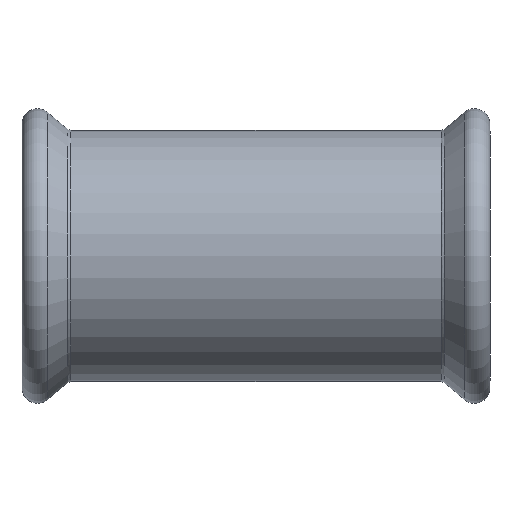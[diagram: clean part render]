
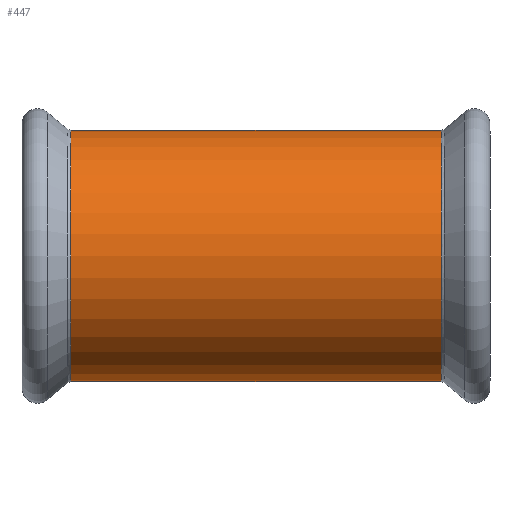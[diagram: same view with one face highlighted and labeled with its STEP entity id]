
A CAD part, front view. The second image highlights one B-rep face of the part: STEP entity #447.
In plain terms, the highlighted cylindrical face has radius 56.35 mm (diameter 112.7 mm), a full revolution.
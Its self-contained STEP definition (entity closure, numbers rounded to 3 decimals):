
#405=CARTESIAN_POINT('',(83.105,56.35,0.0));
#406=VERTEX_POINT('',#405);
#407=CARTESIAN_POINT('',(83.105,0.,0.0));
#408=DIRECTION('',(1.0,0.0,0.0));
#409=DIRECTION('',(0.0,-1.0,0.0));
#410=AXIS2_PLACEMENT_3D('',#407,#408,#409);
#411=CIRCLE('',#410,56.35);
#412=EDGE_CURVE('',#406,#406,#411,.T.);
#428=CARTESIAN_POINT('',(0.,0.,0.0));
#429=DIRECTION('',(1.0,0.,0.0));
#430=DIRECTION('',(0.0,1.0,0.0));
#431=AXIS2_PLACEMENT_3D('',#428,#429,#430);
#432=CYLINDRICAL_SURFACE('',#431,56.35);
#433=CARTESIAN_POINT('',(-83.105,56.35,0.));
#434=VERTEX_POINT('',#433);
#435=CARTESIAN_POINT('',(-83.105,0.,0.0));
#436=DIRECTION('',(-1.0,0.0,0.0));
#437=DIRECTION('',(0.0,-1.0,0.0));
#438=AXIS2_PLACEMENT_3D('',#435,#436,#437);
#439=CIRCLE('',#438,56.35);
#440=EDGE_CURVE('',#434,#434,#439,.T.);
#441=ORIENTED_EDGE('',*,*,#440,.F.);
#442=EDGE_LOOP('',(#441));
#443=FACE_OUTER_BOUND('',#442,.T.);
#444=ORIENTED_EDGE('',*,*,#412,.F.);
#445=EDGE_LOOP('',(#444));
#446=FACE_BOUND('',#445,.T.);
#447=ADVANCED_FACE('',(#443,#446),#432,.T.);
